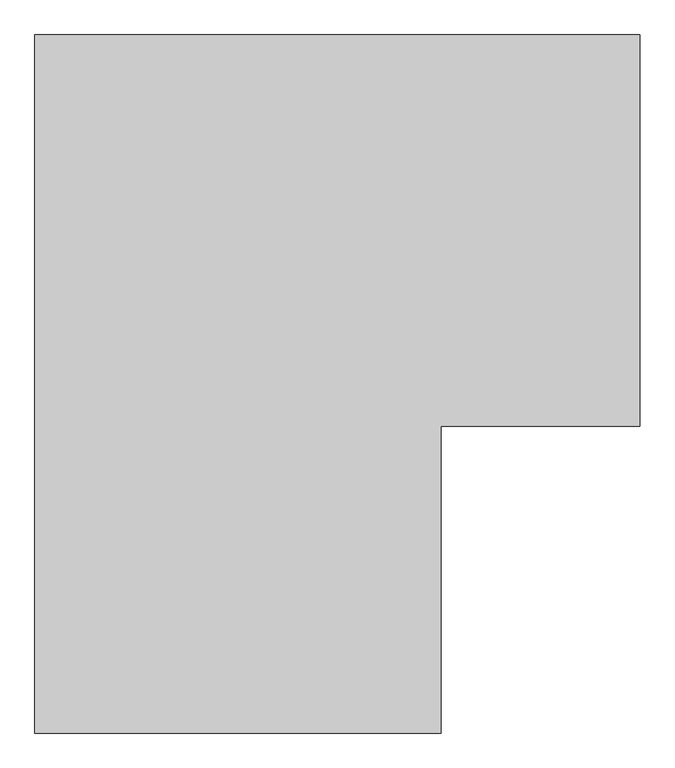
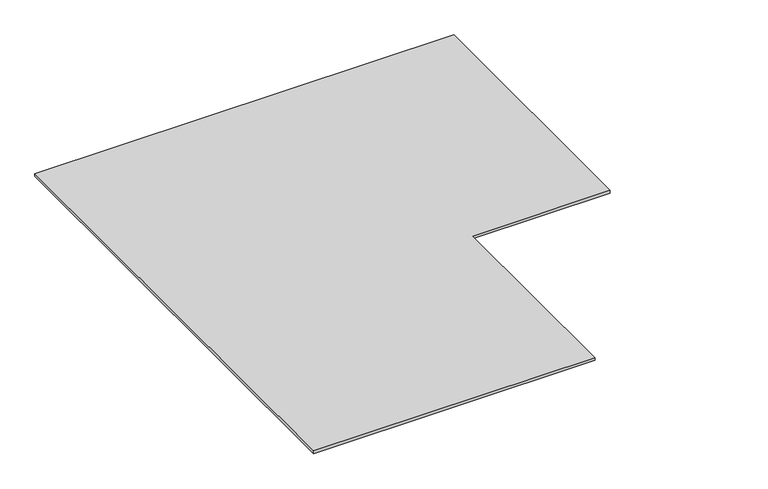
"""IFC4 building model written with IfcOpenShell, lengths in millimetres: proxy geometry, Фиброцементная плита LATONIT окрашенная в массе_1 прямоугольное отверстие : 10 мм."""

from ifc_helpers import new_model, si_unit, frame, origin, place, context, project, spatial, polyline, outline, extrude, source, transform, mapped, element, save


def generic_models_e8aae874(model_context):
    return source(origin(), model_context, "Body", "SweptSolid", [
        extrude(outline(polyline([(0.0, 0.0), (0.0, 1730.0), (1500.0, 1730.0), (1500.0, 760.0), (1006.5, 760.0), (1006.5, 0.0), (0.0, 0.0)])), frame((0.0, 0.0, 240.0), z_axis=(0.0, 0.0, 1.0), x_axis=(1.0, 0.0, 0.0)), (0.0, 0.0, 1.0), 10.0),
    ])


if __name__ == "__main__":
    model = new_model("IFC4")
    model_context = context("Model", 3, world=origin())
    ifc_project = project(units=[si_unit("LENGTHUNIT", "METRE", prefix="MILLI")], contexts=[model_context])
    site = spatial("IfcSite", under=ifc_project)
    building = spatial("IfcBuilding", under=site)
    placement = place(None, origin())
    generic_models_shape = generic_models_e8aae874(model_context)
    element("IfcBuildingElementProxy", 1, Name="Фиброцементная плита LATONIT окрашенная в массе_1 прямоугольное отверстие : 10 мм", ObjectType="Фиброцементная плита LATONIT окрашенная в массе_1 прямоугольное отверстие : 10 мм", at=placement, inside=building, context=model_context, shape_type="MappedRepresentation", body=[
        mapped(generic_models_shape, transform((0.0, 0.0, 0.0), x_axis=(1.0, 0.0, 0.0), y_axis=(0.0, 1.0, 0.0), z_axis=(0.0, 0.0, 1.0))),
    ])
    save(model, "model.ifc")
